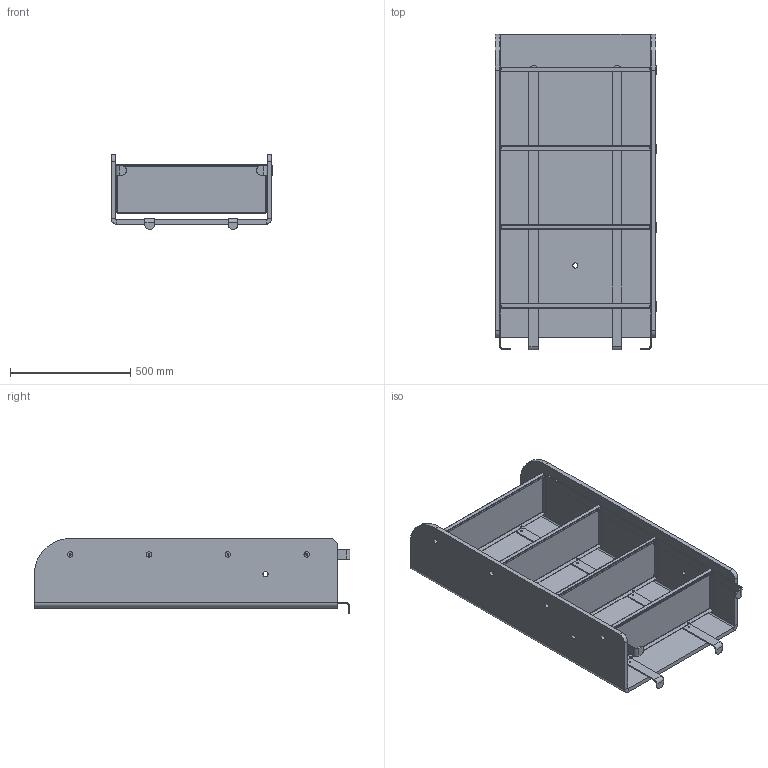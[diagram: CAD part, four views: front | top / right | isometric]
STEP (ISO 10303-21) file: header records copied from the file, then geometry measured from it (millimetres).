
FILE_DESCRIPTION (( 'STEP AP214' ), '1' );
FILE_NAME ('NIK_SHELVE120.STEP', '2021-11-29T08:49:43', ( '' ), ( '' ), 'SwSTEP 2.0', 'SolidWorks 2019', '' );
FILE_SCHEMA (( 'AUTOMOTIVE_DESIGN' ));
Length unit declared in the file: millimetre
Products named in the file (6): Pieza11^NIK_SHELVE120; NIK_SHELVE120; EDE_BOOK; TORNILLOS18; EDE_SUP_04_02; 120
Assembly tree (13 placements, depth 2):
  Pieza11^NIK_SHELVE120
  NIK_SHELVE120
    120
    EDE_SUP_04_02  x4
    TORNILLOS18  x4
    EDE_BOOK  x4
Bounding box: 672.53 x 1313.5 x 312.24 mm (x, y, z)
Volume: 28911947.8 mm3; surface area: 4854909.3 mm2
Topology: 13 solids, 13 shells, 780 faces, 2022 edges, 1272 vertices
Faces by surface type: cylinder 466, plane 302, bspline 12
Entity records: 13039 total; most frequent: CARTESIAN_POINT 7054, ORIENTED_EDGE 1266, DIRECTION 1157, EDGE_CURVE 633, AXIS2_PLACEMENT_3D 414, VERTEX_POINT 399, VECTOR 329, LINE 329
